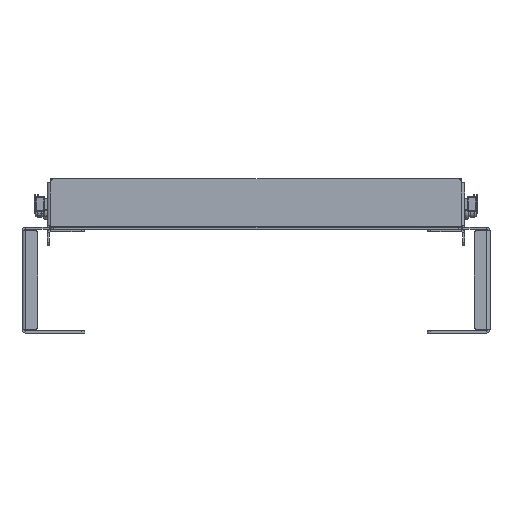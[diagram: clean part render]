
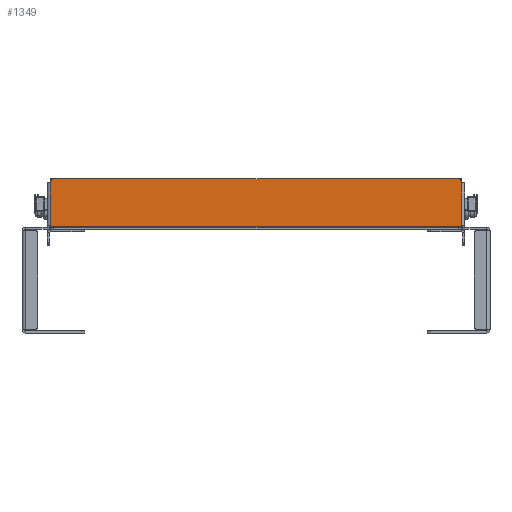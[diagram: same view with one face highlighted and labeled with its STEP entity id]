
A CAD part, front view. The second image highlights one B-rep face of the part: STEP entity #1349.
In plain terms, the highlighted planar face has unit normal (0, -1, 0) as drawn and (0, 1, 0) by its records, which use the part's own axes.
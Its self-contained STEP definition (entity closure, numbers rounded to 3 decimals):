
#185 = CARTESIAN_POINT ( 'NONE',  ( -13.4, 1.5, 129. ) ) ;
#747 = CARTESIAN_POINT ( 'NONE',  ( -13.4, 1.5, 129. ) ) ;
#1347 = CARTESIAN_POINT ( 'NONE',  ( -13.735, 1.5, 129. ) ) ;
#1349 = ADVANCED_FACE ( 'NONE', ( #23588 ), #22073, .F. ) ;
#1528 = EDGE_CURVE ( 'NONE', #9314, #3774, #6523, .T. ) ;
#1590 = VERTEX_POINT ( 'NONE', #9830 ) ;
#1719 = DIRECTION ( 'NONE',  ( 0., 1., 0. ) ) ;
#2493 = CARTESIAN_POINT ( 'NONE',  ( 15.835, 1.5, 127. ) ) ;
#2690 = EDGE_CURVE ( 'NONE', #25836, #6074, #26790, .T. ) ;
#3257 = VECTOR ( 'NONE', #14153, 1000. ) ;
#3276 = DIRECTION ( 'NONE',  ( 0., 0., -1. ) ) ;
#3398 = CARTESIAN_POINT ( 'NONE',  ( -15.835, 1.5, -129. ) ) ;
#3774 = VERTEX_POINT ( 'NONE', #5748 ) ;
#3806 = CARTESIAN_POINT ( 'NONE',  ( 13.835, 1.5, -127. ) ) ;
#4456 = CARTESIAN_POINT ( 'NONE',  ( 13.4, 1.5, -129. ) ) ;
#4469 = LINE ( 'NONE', #6664, #15854 ) ;
#4893 = AXIS2_PLACEMENT_3D ( 'NONE', #11305, #19692, #19567 ) ;
#5226 = DIRECTION ( 'NONE',  ( 1., 0., 0. ) ) ;
#5249 = DIRECTION ( 'NONE',  ( 1., 0., 0. ) ) ;
#5602 = EDGE_CURVE ( 'NONE', #24550, #19476, #10103, .T. ) ;
#5748 = CARTESIAN_POINT ( 'NONE',  ( 13.4, 1.5, 129. ) ) ;
#6074 = VERTEX_POINT ( 'NONE', #7441 ) ;
#6523 = LINE ( 'NONE', #185, #8476 ) ;
#6664 = CARTESIAN_POINT ( 'NONE',  ( -15.835, 1.5, 129. ) ) ;
#6878 = CARTESIAN_POINT ( 'NONE',  ( -15.835, 1.5, 129. ) ) ;
#7441 = CARTESIAN_POINT ( 'NONE',  ( 13.835, 1.5, -129. ) ) ;
#7885 = VECTOR ( 'NONE', #16632, 1000. ) ;
#8476 = VECTOR ( 'NONE', #5249, 1000. ) ;
#9314 = VERTEX_POINT ( 'NONE', #747 ) ;
#9830 = CARTESIAN_POINT ( 'NONE',  ( 13.835, 1.5, 129. ) ) ;
#9995 = LINE ( 'NONE', #20465, #3257 ) ;
#10103 = LINE ( 'NONE', #26935, #26420 ) ;
#10135 = ORIENTED_EDGE ( 'NONE', *, *, #2690, .T. ) ;
#11305 = CARTESIAN_POINT ( 'NONE',  ( 13.835, 1.5, 127. ) ) ;
#11390 = ORIENTED_EDGE ( 'NONE', *, *, #5602, .T. ) ;
#11480 = EDGE_CURVE ( 'NONE', #6074, #20167, #18020, .T. ) ;
#12177 = EDGE_LOOP ( 'NONE', ( #24905, #17003, #24600, #10135, #23166, #15958, #11390, #21172, #26744, #16537 ) ) ;
#12197 = LINE ( 'NONE', #16086, #20761 ) ;
#12884 = DIRECTION ( 'NONE',  ( -1., 0., 0. ) ) ;
#12926 = EDGE_CURVE ( 'NONE', #21408, #25836, #22431, .T. ) ;
#14153 = DIRECTION ( 'NONE',  ( 0., 0., -1. ) ) ;
#14706 = DIRECTION ( 'NONE',  ( 1., 0., 0. ) ) ;
#15118 = CARTESIAN_POINT ( 'NONE',  ( -15.835, 1.5, 129. ) ) ;
#15295 = DIRECTION ( 'NONE',  ( 0., -1., 0. ) ) ;
#15528 = EDGE_CURVE ( 'NONE', #1590, #21408, #21166, .T. ) ;
#15854 = VECTOR ( 'NONE', #12884, 1000. ) ;
#15958 = ORIENTED_EDGE ( 'NONE', *, *, #26351, .T. ) ;
#16086 = CARTESIAN_POINT ( 'NONE',  ( 13.4, 1.5, -129. ) ) ;
#16223 = AXIS2_PLACEMENT_3D ( 'NONE', #3806, #1719, #14706 ) ;
#16313 = EDGE_CURVE ( 'NONE', #9314, #25635, #4469, .T. ) ;
#16537 = ORIENTED_EDGE ( 'NONE', *, *, #1528, .T. ) ;
#16632 = DIRECTION ( 'NONE',  ( -1., 0., 0. ) ) ;
#17003 = ORIENTED_EDGE ( 'NONE', *, *, #15528, .T. ) ;
#17045 = VECTOR ( 'NONE', #22426, 1000. ) ;
#17179 = LINE ( 'NONE', #15118, #7885 ) ;
#17604 = CARTESIAN_POINT ( 'NONE',  ( -13.735, 1.5, -129. ) ) ;
#18020 = LINE ( 'NONE', #3398, #17045 ) ;
#19476 = VERTEX_POINT ( 'NONE', #17604 ) ;
#19567 = DIRECTION ( 'NONE',  ( 1., 0., 0. ) ) ;
#19692 = DIRECTION ( 'NONE',  ( 0., 1., 0. ) ) ;
#20167 = VERTEX_POINT ( 'NONE', #4456 ) ;
#20441 = DIRECTION ( 'NONE',  ( -1., 0., 0. ) ) ;
#20465 = CARTESIAN_POINT ( 'NONE',  ( -13.735, 1.5, 129. ) ) ;
#20498 = CARTESIAN_POINT ( 'NONE',  ( 15.835, 1.5, -127. ) ) ;
#20630 = VECTOR ( 'NONE', #3276, 1000. ) ;
#20761 = VECTOR ( 'NONE', #22973, 1000. ) ;
#21166 = CIRCLE ( 'NONE', #4893, 2. ) ;
#21172 = ORIENTED_EDGE ( 'NONE', *, *, #21970, .F. ) ;
#21408 = VERTEX_POINT ( 'NONE', #2493 ) ;
#21970 = EDGE_CURVE ( 'NONE', #25635, #19476, #9995, .T. ) ;
#22073 = PLANE ( 'NONE',  #23003 ) ;
#22172 = CARTESIAN_POINT ( 'NONE',  ( 15.835, 1.5, 129. ) ) ;
#22426 = DIRECTION ( 'NONE',  ( -1., 0., 0. ) ) ;
#22431 = LINE ( 'NONE', #22172, #20630 ) ;
#22854 = CARTESIAN_POINT ( 'NONE',  ( -13.4, 1.5, -129. ) ) ;
#22884 = EDGE_CURVE ( 'NONE', #1590, #3774, #17179, .T. ) ;
#22973 = DIRECTION ( 'NONE',  ( -1., 0., 0. ) ) ;
#23003 = AXIS2_PLACEMENT_3D ( 'NONE', #6878, #15295, #5226 ) ;
#23166 = ORIENTED_EDGE ( 'NONE', *, *, #11480, .T. ) ;
#23588 = FACE_OUTER_BOUND ( 'NONE', #12177, .T. ) ;
#24550 = VERTEX_POINT ( 'NONE', #22854 ) ;
#24600 = ORIENTED_EDGE ( 'NONE', *, *, #12926, .T. ) ;
#24905 = ORIENTED_EDGE ( 'NONE', *, *, #22884, .F. ) ;
#25635 = VERTEX_POINT ( 'NONE', #1347 ) ;
#25836 = VERTEX_POINT ( 'NONE', #20498 ) ;
#26351 = EDGE_CURVE ( 'NONE', #20167, #24550, #12197, .T. ) ;
#26420 = VECTOR ( 'NONE', #20441, 1000. ) ;
#26744 = ORIENTED_EDGE ( 'NONE', *, *, #16313, .F. ) ;
#26790 = CIRCLE ( 'NONE', #16223, 2. ) ;
#26935 = CARTESIAN_POINT ( 'NONE',  ( -15.835, 1.5, -129. ) ) ;
